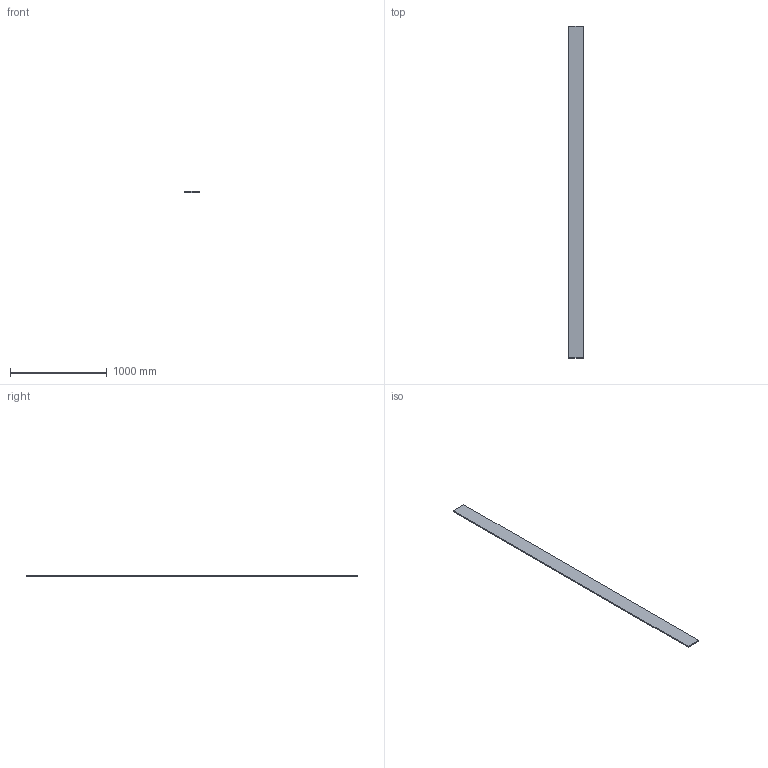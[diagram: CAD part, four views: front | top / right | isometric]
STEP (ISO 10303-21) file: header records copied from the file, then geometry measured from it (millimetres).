
FILE_DESCRIPTION(('Open CASCADE Model'),'2;1');
FILE_NAME('Open CASCADE Shape Model','2026-09-19T12:55:16',('Author'),( 'Open CASCADE'),'Open CASCADE STEP processor 7.9','Open CASCADE 7.9' ,'Unknown');
FILE_SCHEMA(('AUTOMOTIVE_DESIGN { 1 0 10303 214 1 1 1 1 }'));
Length unit declared in the file: millimetre
Products named in the file (1): Open CASCADE STEP translator 7.9 171
Bounding box: 154 x 3430 x 12 mm (x, y, z)
Volume: 6338640 mm3; surface area: 1142456 mm2
Topology: 1 solids, 1 shells, 6 faces, 12 edges, 8 vertices
Faces by surface type: plane 6
Entity records: 322 total; most frequent: CARTESIAN_POINT 51, DIRECTION 50, LINE 36, VECTOR 36, ORIENTED_EDGE 24, PCURVE 24, DEFINITIONAL_REPRESENTATION 24, EDGE_CURVE 12
